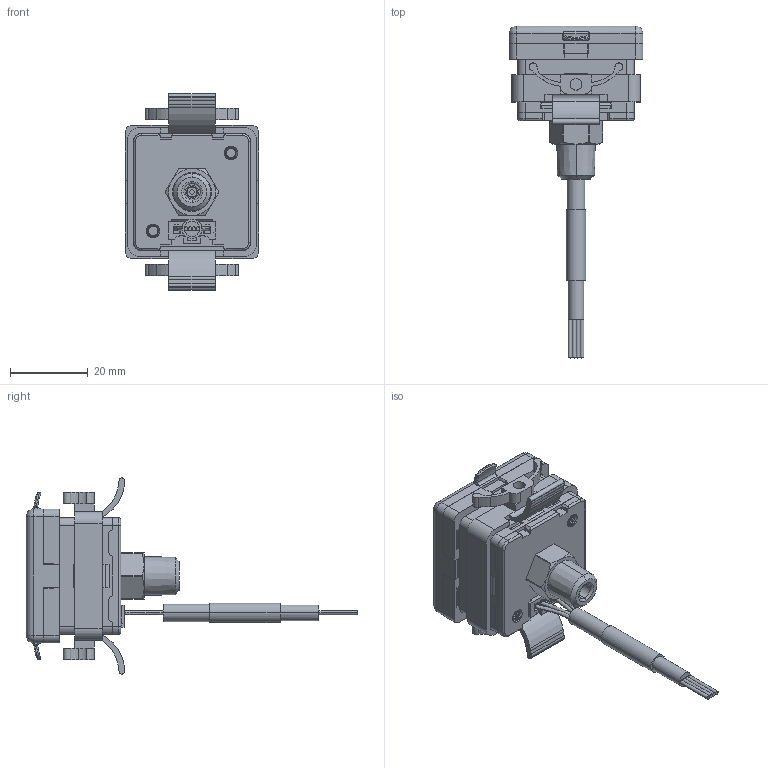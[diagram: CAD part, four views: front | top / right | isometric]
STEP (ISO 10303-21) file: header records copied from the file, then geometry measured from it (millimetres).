
FILE_DESCRIPTION((''),'2;1');
FILE_NAME('KP47-PA-D_ASM','2019-07-08T',('Stark'),(''),'CREO PARAMETRIC BY PTC INC, 2014500','CREO PARAMETRIC BY PTC INC, 2014500','');
FILE_SCHEMA(('CONFIG_CONTROL_DESIGN'));
Length unit declared in the file: millimetre
Products named in the file (3): KP47_PA-C; PA-D; KP47-PA-D_ASM
Assembly tree (2 placements, depth 2):
  KP47-PA-D_ASM
    KP47_PA-C
    PA-D
Bounding box: 34.4 x 85.2 x 50.4 mm (x, y, z)
Volume: 25384.4 mm3; surface area: 15633.8 mm2
Topology: 3 solids, 3 shells, 1069 faces, 2762 edges, 1722 vertices
Faces by surface type: plane 750, cylinder 217, bspline 45, torus 35, cone 18, sphere 4
Entity records: 39738 total; most frequent: CARTESIAN_POINT 13846, ORIENTED_EDGE 5524, DIRECTION 5062, EDGE_CURVE 2762, VECTOR 2136, LINE 2136, VERTEX_POINT 1722, AXIS2_PLACEMENT_3D 1463
